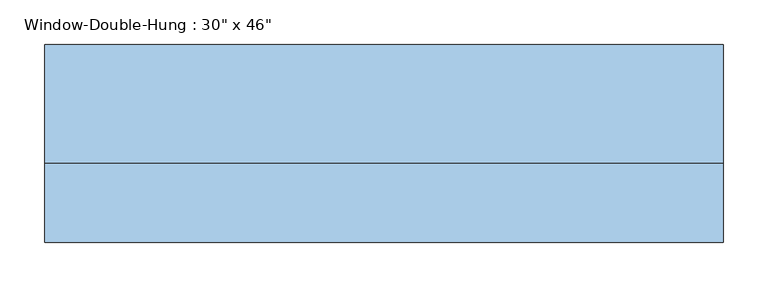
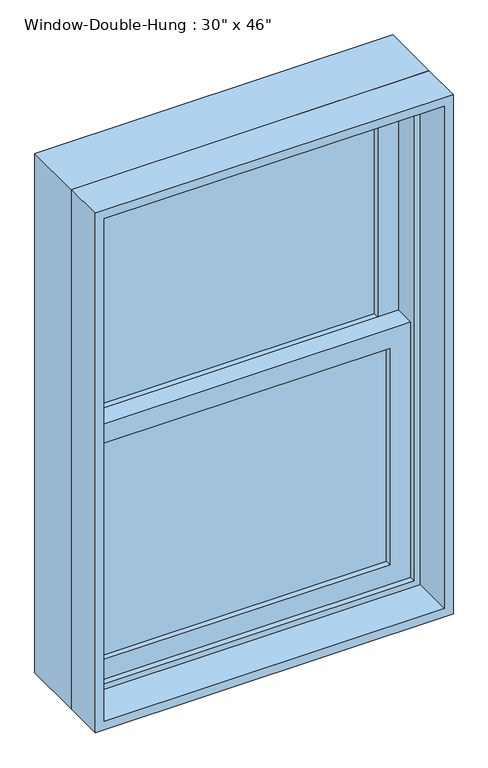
"""IFC4 building model written with IfcOpenShell, lengths in millimetres: window geometry."""

from ifc_helpers import new_model, si_unit, frame, origin, place, context, project, spatial, polyline, outline, extrude, source, transform, mapped, element, save


def window_270cf567(model_context):
    return source(origin(), model_context, "Body", "SweptSolid", [
        extrude(outline(polyline([(304.8, 31.75), (304.8, 25.4), (-304.8, 25.4), (-304.8, 31.75), (304.8, 31.75)])), frame((0.0, 0.0, 990.6), z_axis=(0.0, 0.0, 1.0), x_axis=(1.0, 0.0, 0.0)), (0.0, 0.0, 1.0), 485.775),
        extrude(outline(polyline([(-304.8, 19.05), (304.8, 19.05), (304.8, 12.7), (-304.8, 12.7), (-304.8, 19.05)])), frame((0.0, 0.0, 990.6), z_axis=(0.0, 0.0, 1.0), x_axis=(1.0, 0.0, 0.0)), (0.0, 0.0, 1.0), 485.775),
        extrude(outline(polyline([(304.8, 76.2), (304.8, 69.85), (-304.8, 69.85), (-304.8, 76.2), (304.8, 76.2)])), frame((0.0, 0.0, 1520.825), z_axis=(0.0, 0.0, 1.0), x_axis=(1.0, 0.0, 0.0)), (0.0, 0.0, 1.0), 485.775),
        extrude(outline(polyline([(-304.8, 63.5), (304.8, 63.5), (304.8, 57.15), (-304.8, 57.15), (-304.8, 63.5)])), frame((0.0, 0.0, 1520.825), z_axis=(0.0, 0.0, 1.0), x_axis=(1.0, 0.0, 0.0)), (0.0, 0.0, 1.0), 485.775),
        extrude(outline(polyline([(1520.825, -349.25), (946.15, -349.25), (946.15, 349.25), (1520.825, 349.25), (1520.825, -349.25)]), holes=[polyline([(1476.375, 304.8), (990.6, 304.8), (990.6, -304.8), (1476.375, -304.8), (1476.375, 304.8)])]), frame((0.0, 0.0, 0.0), z_axis=(0.0, 1.0, 0.0), x_axis=(0.0, 0.0, 1.0)), (0.0, 0.0, 1.0), 44.45),
        extrude(outline(polyline([(2051.05, -349.25), (1476.375, -349.25), (1476.375, 349.25), (2051.05, 349.25), (2051.05, -349.25)]), holes=[polyline([(2006.6, 304.8), (1520.825, 304.8), (1520.825, -304.8), (2006.6, -304.8), (2006.6, 304.8)])]), frame((0.0, 44.45, 0.0), z_axis=(0.0, 1.0, 0.0), x_axis=(0.0, 0.0, 1.0)), (0.0, 0.0, 1.0), 44.45),
        extrude(outline(polyline([(2082.8, -381.0), (914.4, -381.0), (914.4, 381.0), (2082.8, 381.0), (2082.8, -381.0)]), holes=[polyline([(2051.05, 349.25), (946.15, 349.25), (946.15, -349.25), (2051.05, -349.25), (2051.05, 349.25)])]), frame((0.0, -12.7, 0.0), z_axis=(0.0, 1.0, 0.0), x_axis=(0.0, 0.0, 1.0)), (0.0, 0.0, 1.0), 133.35),
        extrude(outline(polyline([(2082.8, 381.0), (2082.8, -381.0), (914.4, -381.0), (914.4, 381.0), (2082.8, 381.0)]), holes=[polyline([(2063.75, 361.95), (933.45, 361.95), (933.45, -361.95), (2063.75, -361.95), (2063.75, 361.95)])]), frame((0.0, -101.6, 0.0), z_axis=(0.0, 1.0, 0.0), x_axis=(0.0, 0.0, 1.0)), (0.0, 0.0, 1.0), 88.9),
    ])


if __name__ == "__main__":
    model = new_model("IFC4")
    model_context = context("Model", 3, world=origin())
    ifc_project = project(units=[si_unit("LENGTHUNIT", "METRE", prefix="MILLI")], contexts=[model_context])
    site = spatial("IfcSite", under=ifc_project)
    building = spatial("IfcBuilding", under=site)
    placement = place(None, origin())
    window_shape = window_270cf567(model_context)
    element("IfcWindow", 1, ObjectType="Window-Double-Hung : 30\" x 46\"", at=placement, inside=building, context=model_context, shape_type="MappedRepresentation", body=[
        mapped(window_shape, transform((0.0, 0.0, 0.0), x_axis=(1.0, 0.0, 0.0), y_axis=(0.0, 1.0, 0.0), z_axis=(0.0, 0.0, 1.0))),
    ])
    save(model, "model.ifc")
